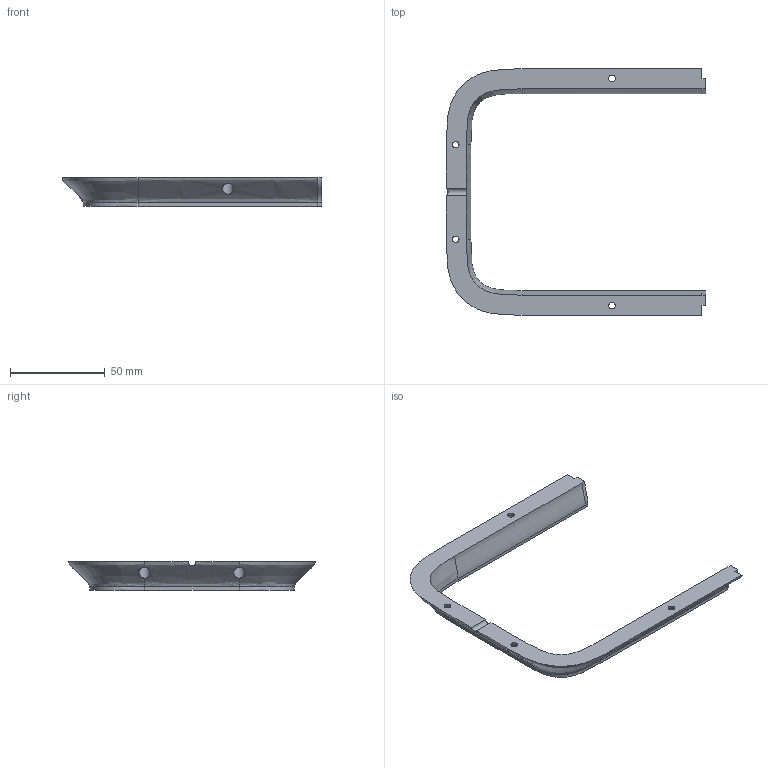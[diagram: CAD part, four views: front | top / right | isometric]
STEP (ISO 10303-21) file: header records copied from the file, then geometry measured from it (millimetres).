
FILE_DESCRIPTION(/* description */ (''),/* implementation_level */ '2;1');
FILE_NAME(/* name */ 'BACK BASE.step',/* time_stamp */ '2024-02-28T16:51:16Z',/* author */ (''),/* organization */ (''),/* preprocessor_version */ 'ST-DEVELOPER v20',/* originating_system */ 'Autodesk Translation Framework v12.20.1.177',/* authorisation */ '');
FILE_SCHEMA (('AUTOMOTIVE_DESIGN { 1 0 10303 214 3 1 1 }'));
Length unit declared in the file: millimetre
Products named in the file (1): BACK BASE
Bounding box: 137 x 130 x 15 mm (x, y, z)
Volume: 29298.4 mm3; surface area: 16997.4 mm2
Topology: 1 solids, 1 shells, 53 faces, 139 edges, 86 vertices
Faces by surface type: bspline 25, plane 15, cylinder 9, cone 4
Full cylindrical faces by diameter (mm): 3.5 x4, 6 x4
Entity records: 3259 total; most frequent: CARTESIAN_POINT 2093, ORIENTED_EDGE 278, DIRECTION 163, EDGE_CURVE 139, VERTEX_POINT 86, LINE 69, VECTOR 69, EDGE_LOOP 59
